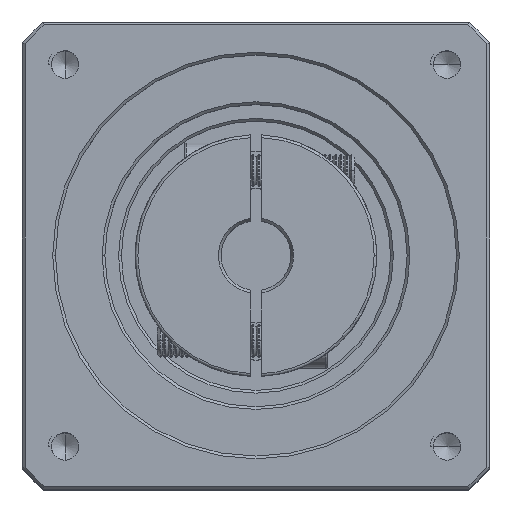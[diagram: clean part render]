
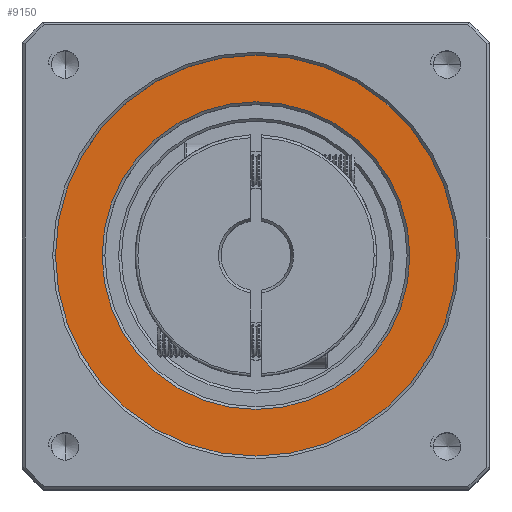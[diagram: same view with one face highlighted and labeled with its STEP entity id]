
A CAD part, top view. The second image highlights one B-rep face of the part: STEP entity #9150.
In plain terms, the highlighted planar face has unit normal (0, 0, 1).
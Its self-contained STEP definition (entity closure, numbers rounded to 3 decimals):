
#1936 = AXIS2_PLACEMENT_3D ( 'NONE', #89523, #89431, #89276 ) ;
#7890 = EDGE_CURVE ( 'NONE', #59131, #86291, #94307, .T. ) ;
#8724 = CARTESIAN_POINT ( 'NONE',  ( 61.196, 4.37, 99.75 ) ) ;
#9150 = ADVANCED_FACE ( 'NONE', ( #35868, #35344 ), #94479, .T. ) ;
#10141 = AXIS2_PLACEMENT_3D ( 'NONE', #96597, #45982, #104982 ) ;
#10173 = EDGE_CURVE ( 'NONE', #46412, #81450, #83311, .T. ) ;
#10275 = CARTESIAN_POINT ( 'NONE',  ( -3.304, 4.37, 99.75 ) ) ;
#11461 = CARTESIAN_POINT ( 'NONE',  ( 24.696, 4.37, 99.75 ) ) ;
#13159 = AXIS2_PLACEMENT_3D ( 'NONE', #11461, #70895, #20041 ) ;
#17791 = ORIENTED_EDGE ( 'NONE', *, *, #7890, .T. ) ;
#19575 = ORIENTED_EDGE ( 'NONE', *, *, #97532, .T. ) ;
#19793 = ORIENTED_EDGE ( 'NONE', *, *, #58808, .T. ) ;
#20041 = DIRECTION ( 'NONE',  ( 1., 0., 0. ) ) ;
#21470 = ORIENTED_EDGE ( 'NONE', *, *, #10173, .T. ) ;
#21929 = DIRECTION ( 'NONE',  ( 1., 0., 0. ) ) ;
#23899 = DIRECTION ( 'NONE',  ( 0., 0., -1. ) ) ;
#26563 = CARTESIAN_POINT ( 'NONE',  ( 24.696, 4.37, 99.75 ) ) ;
#35344 = FACE_BOUND ( 'NONE', #99090, .T. ) ;
#35868 = FACE_OUTER_BOUND ( 'NONE', #72796, .T. ) ;
#45982 = DIRECTION ( 'NONE',  ( 0., 0., 1. ) ) ;
#46412 = VERTEX_POINT ( 'NONE', #10275 ) ;
#55658 = AXIS2_PLACEMENT_3D ( 'NONE', #26563, #23899, #21929 ) ;
#58808 = EDGE_CURVE ( 'NONE', #81450, #46412, #108264, .T. ) ;
#59131 = VERTEX_POINT ( 'NONE', #8724 ) ;
#70895 = DIRECTION ( 'NONE',  ( 0., 0., -1. ) ) ;
#72796 = EDGE_LOOP ( 'NONE', ( #17791, #19575 ) ) ;
#79371 = AXIS2_PLACEMENT_3D ( 'NONE', #108998, #92910, #92561 ) ;
#81450 = VERTEX_POINT ( 'NONE', #91168 ) ;
#83311 = CIRCLE ( 'NONE', #55658, 28. ) ;
#86291 = VERTEX_POINT ( 'NONE', #100396 ) ;
#89276 = DIRECTION ( 'NONE',  ( 1., 0., 0. ) ) ;
#89431 = DIRECTION ( 'NONE',  ( 0., 0., 1. ) ) ;
#89523 = CARTESIAN_POINT ( 'NONE',  ( 24.696, 4.37, 99.75 ) ) ;
#91168 = CARTESIAN_POINT ( 'NONE',  ( 52.696, 4.37, 99.75 ) ) ;
#92561 = DIRECTION ( 'NONE',  ( 1., 0., 0. ) ) ;
#92910 = DIRECTION ( 'NONE',  ( 0., 0., 1. ) ) ;
#94307 = CIRCLE ( 'NONE', #1936, 36.5 ) ;
#94479 = PLANE ( 'NONE',  #79371 ) ;
#96597 = CARTESIAN_POINT ( 'NONE',  ( 24.696, 4.37, 99.75 ) ) ;
#97532 = EDGE_CURVE ( 'NONE', #86291, #59131, #98852, .T. ) ;
#98852 = CIRCLE ( 'NONE', #10141, 36.5 ) ;
#99090 = EDGE_LOOP ( 'NONE', ( #19793, #21470 ) ) ;
#100396 = CARTESIAN_POINT ( 'NONE',  ( -11.804, 4.37, 99.75 ) ) ;
#104982 = DIRECTION ( 'NONE',  ( 1., 0., 0. ) ) ;
#108264 = CIRCLE ( 'NONE', #13159, 28. ) ;
#108998 = CARTESIAN_POINT ( 'NONE',  ( 24.696, 4.37, 99.75 ) ) ;
